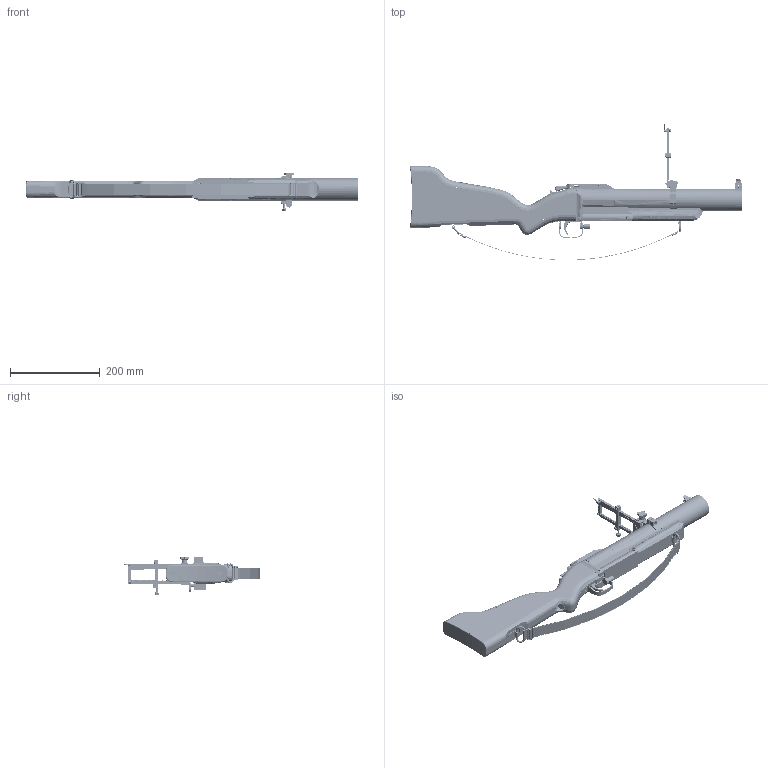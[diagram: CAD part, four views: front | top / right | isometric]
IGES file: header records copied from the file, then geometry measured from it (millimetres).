
Start section: SolidWorks IGES file using analytic representation for surfaces
Global section: file name: C:\Users\0john\Documents\thumper\THUMPER\M75 THRUMPER PACKED\M75 THRUMPER ASSY.IGS; native system: SolidWorks 2018; preprocessor: SolidWorks 2018; author: 0john; date: 221121.095222; units: inch
Bounding box: 740.68 x 304.38 x 85.38 mm (x, y, z)
Surface area: 471571.1 mm2 (no closed solid volume)
Topology: 0 solids, 0 shells, 4557 faces, 68433 edges, 68329 vertices
Faces by surface type: revolution 2487, bspline 2070
